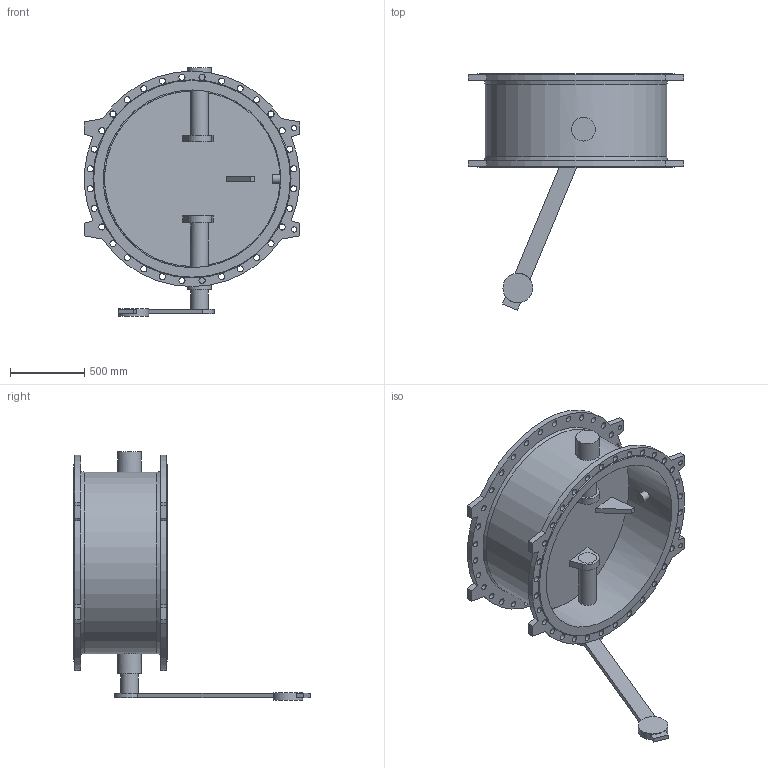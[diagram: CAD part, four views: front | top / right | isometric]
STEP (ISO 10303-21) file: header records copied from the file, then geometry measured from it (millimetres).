
FILE_DESCRIPTION(('STEP AP203'), '1');
FILE_NAME('Êëàïàí 015F.PV DN1200 PN10 ñ ïðîòèâîâåñîì', '', ('UNSPECIFIED'), ('UNSPECIFIED'), 'ASCON STEP Converter 1.6', 'ASCON Math Kernel', '');
FILE_SCHEMA(('CONFIG_CONTROL_DESIGN'));
Length unit declared in the file: millimetre
Bounding box: 1455 x 1595 x 1678 mm (x, y, z)
Volume: 105998782.7 mm3; surface area: 10587177.8 mm2
Topology: 1 solids, 1 shells, 160 faces, 426 edges, 283 vertices
Faces by surface type: cylinder 90, plane 63, cone 4, extrusion 2, bspline 1
Full cylindrical faces by diameter (mm): 35 x4, 41 x64, 60 x1, 120 x3, 122 x2, 160 x2, 200 x1, 1200 x1, 1226 x1
Entity records: 7146 total; most frequent: CARTESIAN_POINT 1759, DIRECTION 822, ORIENTED_EDGE 672, EDGE_LOOP 406, AXIS2_PLACEMENT_3D 345, EDGE_CURVE 336, VERTEX_POINT 282, FACE_BOUND 238
